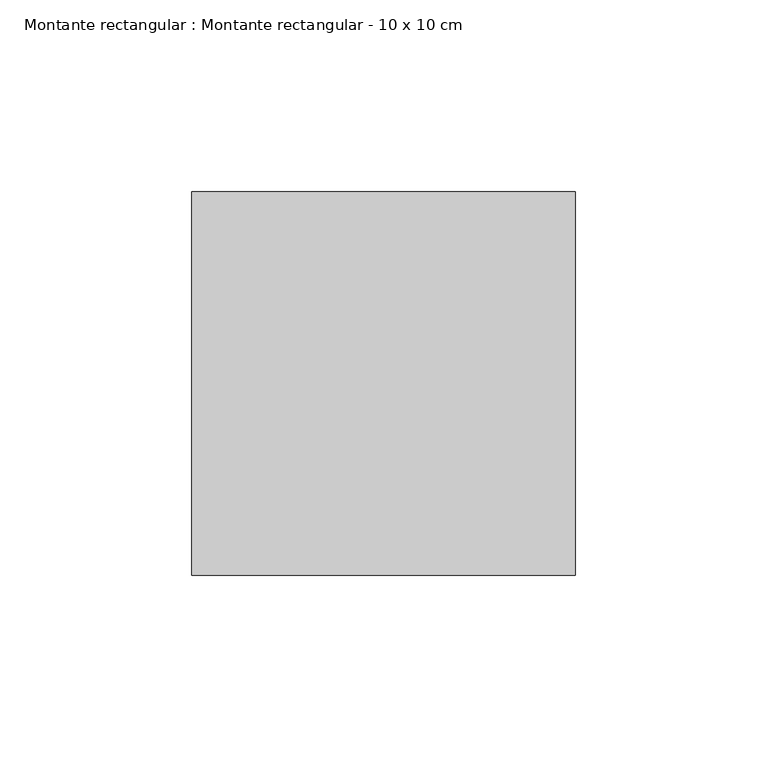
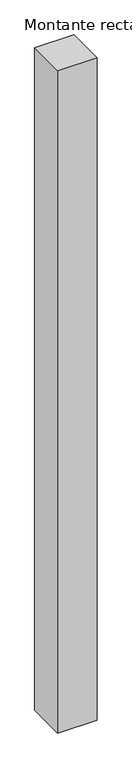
"""IFC4 building model written with IfcOpenShell, lengths in millimetres: member geometry, Montante rectangular : Montante rectangular - 10 x 10 cm."""

from ifc_helpers import new_model, si_unit, frame, origin, place, context, project, spatial, polyline, outline, extrude, source, transform, mapped, element, save


def montante_rectangular_montante_rectangular_10_x_10_cm_9496b26a(model_context):
    return source(origin(), model_context, "Body", "SweptSolid", [
        extrude(outline(polyline([(0.0, 50.0), (0.0, -50.0), (-100.0, -50.0), (-100.0, 50.0), (0.0, 50.0)])), frame((0.0, 0.0, -1775.0), z_axis=(0.0, 0.0, 1.0), x_axis=(1.0, 0.0, 0.0)), (0.0, 0.0, 1.0), 1775.0),
    ])


if __name__ == "__main__":
    model = new_model("IFC4")
    model_context = context("Model", 3, world=origin())
    ifc_project = project(units=[si_unit("LENGTHUNIT", "METRE", prefix="MILLI")], contexts=[model_context])
    site = spatial("IfcSite", under=ifc_project)
    building = spatial("IfcBuilding", under=site)
    placement = place(None, origin())
    montante_rectangular_montante_rectangular_10_x_10_cm_shape = montante_rectangular_montante_rectangular_10_x_10_cm_9496b26a(model_context)
    element("IfcMember", 1, ObjectType="Montante rectangular : Montante rectangular - 10 x 10 cm", at=placement, inside=building, context=model_context, shape_type="MappedRepresentation", body=[
        mapped(montante_rectangular_montante_rectangular_10_x_10_cm_shape, transform((0.0, 0.0, 0.0), x_axis=(1.0, 0.0, 0.0), y_axis=(0.0, 1.0, 0.0), z_axis=(0.0, 0.0, 1.0))),
    ])
    save(model, "model.ifc")
